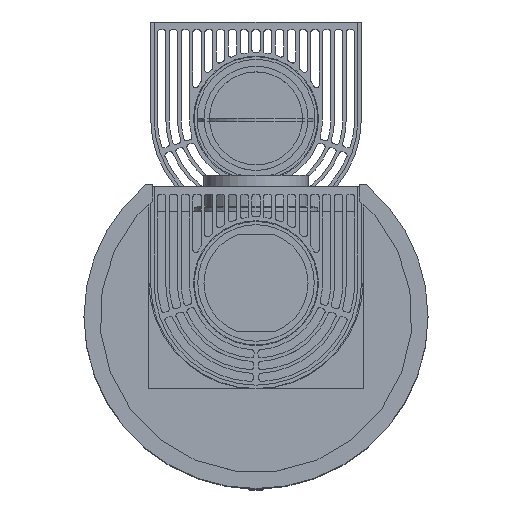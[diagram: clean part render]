
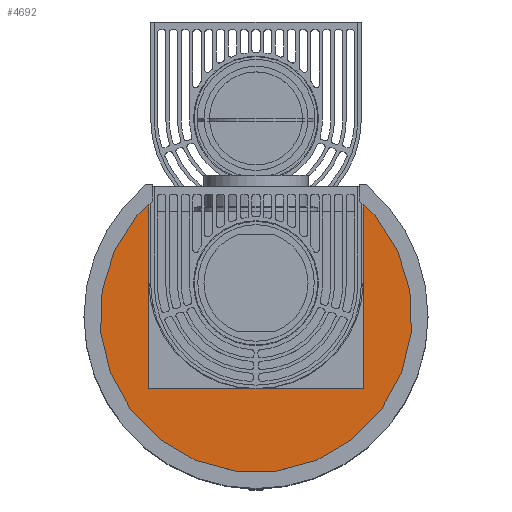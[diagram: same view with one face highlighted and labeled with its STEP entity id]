
A CAD part, top view. The second image highlights one B-rep face of the part: STEP entity #4692.
In plain terms, the highlighted planar face has unit normal (0, 0, 1).
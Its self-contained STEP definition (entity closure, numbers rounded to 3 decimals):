
#4692 = ADVANCED_FACE( '', ( #9731 ), #9732, .T. );
#9731 = FACE_OUTER_BOUND( '', #37707, .T. );
#9732 = PLANE( '', #37708 );
#37707 = EDGE_LOOP( '', ( #57451, #57452, #57453, #57454, #57455, #57456, #57457, #57458, #57459, #57460, #57461, #57462, #57463, #57464, #57465, #57466, #57467, #57468, #57469, #57470, #57471, #57472 ) );
#37708 = AXIS2_PLACEMENT_3D( '', #57473, #57474, #57475 );
#57451 = ORIENTED_EDGE( '', *, *, #62112, .F. );
#57452 = ORIENTED_EDGE( '', *, *, #63010, .F. );
#57453 = ORIENTED_EDGE( '', *, *, #61467, .F. );
#57454 = ORIENTED_EDGE( '', *, *, #64643, .F. );
#57455 = ORIENTED_EDGE( '', *, *, #61073, .F. );
#57456 = ORIENTED_EDGE( '', *, *, #65084, .F. );
#57457 = ORIENTED_EDGE( '', *, *, #62331, .F. );
#57458 = ORIENTED_EDGE( '', *, *, #62249, .F. );
#57459 = ORIENTED_EDGE( '', *, *, #62795, .F. );
#57460 = ORIENTED_EDGE( '', *, *, #60389, .F. );
#57461 = ORIENTED_EDGE( '', *, *, #63585, .F. );
#57462 = ORIENTED_EDGE( '', *, *, #63813, .T. );
#57463 = ORIENTED_EDGE( '', *, *, #62506, .T. );
#57464 = ORIENTED_EDGE( '', *, *, #65242, .T. );
#57465 = ORIENTED_EDGE( '', *, *, #64318, .T. );
#57466 = ORIENTED_EDGE( '', *, *, #65100, .T. );
#57467 = ORIENTED_EDGE( '', *, *, #65243, .T. );
#57468 = ORIENTED_EDGE( '', *, *, #60959, .T. );
#57469 = ORIENTED_EDGE( '', *, *, #62992, .T. );
#57470 = ORIENTED_EDGE( '', *, *, #65244, .T. );
#57471 = ORIENTED_EDGE( '', *, *, #65245, .T. );
#57472 = ORIENTED_EDGE( '', *, *, #65246, .F. );
#57473 = CARTESIAN_POINT( '', ( -307.95, -12382.865, 1538.155 ) );
#57474 = DIRECTION( '', ( 0., 0., 1. ) );
#57475 = DIRECTION( '', ( 1., 0., 0. ) );
#60389 = EDGE_CURVE( '', #67063, #67066, #67067, .T. );
#60959 = EDGE_CURVE( '', #68044, #68049, #68051, .T. );
#61073 = EDGE_CURVE( '', #68240, #68243, #68244, .T. );
#61467 = EDGE_CURVE( '', #68881, #68884, #68885, .T. );
#62112 = EDGE_CURVE( '', #69903, #69906, #69907, .T. );
#62249 = EDGE_CURVE( '', #70109, #70112, #70113, .T. );
#62331 = EDGE_CURVE( '', #70112, #70236, #70237, .T. );
#62506 = EDGE_CURVE( '', #70489, #70494, #70496, .T. );
#62795 = EDGE_CURVE( '', #67066, #70109, #70926, .T. );
#62992 = EDGE_CURVE( '', #68049, #71206, #71208, .T. );
#63010 = EDGE_CURVE( '', #68884, #69903, #71229, .T. );
#63585 = EDGE_CURVE( '', #72031, #67063, #72033, .T. );
#63813 = EDGE_CURVE( '', #72031, #70489, #72347, .T. );
#64318 = EDGE_CURVE( '', #72984, #72986, #72988, .T. );
#64643 = EDGE_CURVE( '', #68243, #68881, #73372, .T. );
#65084 = EDGE_CURVE( '', #70236, #68240, #73880, .T. );
#65100 = EDGE_CURVE( '', #72986, #73896, #73898, .T. );
#65242 = EDGE_CURVE( '', #70494, #72984, #74043, .T. );
#65243 = EDGE_CURVE( '', #73896, #68044, #74044, .T. );
#65244 = EDGE_CURVE( '', #71206, #74045, #74046, .T. );
#65245 = EDGE_CURVE( '', #74045, #74047, #74048, .T. );
#65246 = EDGE_CURVE( '', #69906, #74047, #74049, .T. );
#67063 = VERTEX_POINT( '', #78186 );
#67066 = VERTEX_POINT( '', #78190 );
#67067 = LINE( '', #78191, #78192 );
#68044 = VERTEX_POINT( '', #80586 );
#68049 = VERTEX_POINT( '', #80593 );
#68051 = LINE( '', #80596, #80597 );
#68240 = VERTEX_POINT( '', #81085 );
#68243 = VERTEX_POINT( '', #81089 );
#68244 = LINE( '', #81090, #81091 );
#68881 = VERTEX_POINT( '', #82772 );
#68884 = VERTEX_POINT( '', #82776 );
#68885 = LINE( '', #82777, #82778 );
#69903 = VERTEX_POINT( '', #85835 );
#69906 = VERTEX_POINT( '', #85839 );
#69907 = LINE( '', #85840, #85841 );
#70109 = VERTEX_POINT( '', #86211 );
#70112 = VERTEX_POINT( '', #86215 );
#70113 = LINE( '', #86216, #86217 );
#70236 = VERTEX_POINT( '', #86419 );
#70237 = LINE( '', #86420, #86421 );
#70489 = VERTEX_POINT( '', #87161 );
#70494 = VERTEX_POINT( '', #87168 );
#70496 = LINE( '', #87171, #87172 );
#70926 = LINE( '', #88130, #88131 );
#71206 = VERTEX_POINT( '', #88991 );
#71208 = LINE( '', #88994, #88995 );
#71229 = LINE( '', #89039, #89040 );
#72031 = VERTEX_POINT( '', #91584 );
#72033 = LINE( '', #91587, #91588 );
#72347 = LINE( '', #92607, #92608 );
#72984 = VERTEX_POINT( '', #94248 );
#72986 = VERTEX_POINT( '', #94251 );
#72988 = LINE( '', #94254, #94255 );
#73372 = LINE( '', #95484, #95485 );
#73880 = LINE( '', #96658, #96659 );
#73896 = VERTEX_POINT( '', #96677 );
#73898 = LINE( '', #96680, #96681 );
#74043 = LINE( '', #96971, #96972 );
#74044 = LINE( '', #96973, #96974 );
#74045 = VERTEX_POINT( '', #96975 );
#74046 = LINE( '', #96976, #96977 );
#74047 = VERTEX_POINT( '', #96978 );
#74048 = LINE( '', #96979, #96980 );
#74049 = LINE( '', #96981, #96982 );
#78186 = CARTESIAN_POINT( '', ( -30., -511.35, 1538.155 ) );
#78190 = CARTESIAN_POINT( '', ( -87.867, -495.493, 1538.155 ) );
#78191 = CARTESIAN_POINT( '', ( -255.021, -449.69, 1538.155 ) );
#78192 = VECTOR( '', #98573, 1000. );
#80586 = CARTESIAN_POINT( '', ( 221.854, -250.805, 1538.155 ) );
#80593 = CARTESIAN_POINT( '', ( 204.045, -193.509, 1538.155 ) );
#80596 = CARTESIAN_POINT( '', ( 173.388, -94.884, 1538.155 ) );
#80597 = VECTOR( '', #99135, 1000. );
#81085 = CARTESIAN_POINT( '', ( -223.889, -310.77, 1538.155 ) );
#81089 = CARTESIAN_POINT( '', ( -221.854, -250.805, 1538.155 ) );
#81090 = CARTESIAN_POINT( '', ( -216.649, -97.395, 1538.155 ) );
#81091 = VECTOR( '', #99243, 1000. );
#82772 = CARTESIAN_POINT( '', ( -204.045, -193.509, 1538.155 ) );
#82776 = CARTESIAN_POINT( '', ( -171.726, -142.957, 1538.155 ) );
#82777 = CARTESIAN_POINT( '', ( -148.25, -106.236, 1538.155 ) );
#82778 = VECTOR( '', #99621, 1000. );
#85835 = CARTESIAN_POINT( '', ( -154.495, -127.539, 1538.155 ) );
#85839 = CARTESIAN_POINT( '', ( -154.451, -391.85, 1538.155 ) );
#85840 = CARTESIAN_POINT( '', ( -154.5, -99.349, 1538.155 ) );
#85841 = VECTOR( '', #100185, 1000. );
#86211 = CARTESIAN_POINT( '', ( -139.486, -464.908, 1538.155 ) );
#86215 = CARTESIAN_POINT( '', ( -181.187, -421.768, 1538.155 ) );
#86216 = CARTESIAN_POINT( '', ( -331.596, -266.168, 1538.155 ) );
#86217 = VECTOR( '', #100309, 1000. );
#86419 = CARTESIAN_POINT( '', ( -210.004, -369.142, 1538.155 ) );
#86420 = CARTESIAN_POINT( '', ( -311.898, -183.062, 1538.155 ) );
#86421 = VECTOR( '', #100376, 1000. );
#87161 = CARTESIAN_POINT( '', ( 87.867, -495.493, 1538.155 ) );
#87168 = CARTESIAN_POINT( '', ( 139.486, -464.908, 1538.155 ) );
#87171 = CARTESIAN_POINT( '', ( 314.263, -361.348, 1538.155 ) );
#87172 = VECTOR( '', #100518, 1000. );
#88130 = CARTESIAN_POINT( '', ( -314.263, -361.348, 1538.155 ) );
#88131 = VECTOR( '', #100785, 1000. );
#88991 = CARTESIAN_POINT( '', ( 171.726, -142.957, 1538.155 ) );
#88994 = CARTESIAN_POINT( '', ( 148.25, -106.236, 1538.155 ) );
#88995 = VECTOR( '', #100929, 1000. );
#89039 = CARTESIAN_POINT( '', ( -143.001, -117.254, 1538.155 ) );
#89040 = VECTOR( '', #100945, 1000. );
#91584 = CARTESIAN_POINT( '', ( 30., -511.35, 1538.155 ) );
#91587 = CARTESIAN_POINT( '', ( -159.022, -511.35, 1538.155 ) );
#91588 = VECTOR( '', #101335, 1000. );
#92607 = CARTESIAN_POINT( '', ( 255.021, -449.69, 1538.155 ) );
#92608 = VECTOR( '', #101558, 1000. );
#94248 = CARTESIAN_POINT( '', ( 181.187, -421.768, 1538.155 ) );
#94251 = CARTESIAN_POINT( '', ( 210.004, -369.142, 1538.155 ) );
#94254 = CARTESIAN_POINT( '', ( 311.898, -183.062, 1538.155 ) );
#94255 = VECTOR( '', #102074, 1000. );
#95484 = CARTESIAN_POINT( '', ( -173.388, -94.884, 1538.155 ) );
#95485 = VECTOR( '', #102283, 1000. );
#96658 = CARTESIAN_POINT( '', ( -268.013, -125.276, 1538.155 ) );
#96659 = VECTOR( '', #102622, 1000. );
#96677 = CARTESIAN_POINT( '', ( 223.889, -310.77, 1538.155 ) );
#96680 = CARTESIAN_POINT( '', ( 268.013, -125.276, 1538.155 ) );
#96681 = VECTOR( '', #102632, 1000. );
#96971 = CARTESIAN_POINT( '', ( 331.596, -266.168, 1538.155 ) );
#96972 = VECTOR( '', #102694, 1000. );
#96973 = CARTESIAN_POINT( '', ( 216.649, -97.395, 1538.155 ) );
#96974 = VECTOR( '', #102695, 1000. );
#96975 = CARTESIAN_POINT( '', ( 154.495, -127.539, 1538.155 ) );
#96976 = CARTESIAN_POINT( '', ( 143.001, -117.254, 1538.155 ) );
#96977 = VECTOR( '', #102696, 1000. );
#96978 = CARTESIAN_POINT( '', ( 154.451, -391.85, 1538.155 ) );
#96979 = CARTESIAN_POINT( '', ( 154.5, -99.349, 1538.155 ) );
#96980 = VECTOR( '', #102697, 1000. );
#96981 = CARTESIAN_POINT( '', ( -159.022, -391.85, 1538.155 ) );
#96982 = VECTOR( '', #102698, 1000. );
#98573 = DIRECTION( '', ( -0.964, 0.264, 0. ) );
#99135 = DIRECTION( '', ( -0.297, 0.955, 0. ) );
#99243 = DIRECTION( '', ( 0.034, 0.999, 0. ) );
#99621 = DIRECTION( '', ( 0.539, 0.843, 0. ) );
#100185 = DIRECTION( '', ( 0., -1., 0. ) );
#100309 = DIRECTION( '', ( -0.695, 0.719, 0. ) );
#100376 = DIRECTION( '', ( -0.48, 0.877, 0. ) );
#100518 = DIRECTION( '', ( 0.86, 0.51, 0. ) );
#100785 = DIRECTION( '', ( -0.86, 0.51, 0. ) );
#100929 = DIRECTION( '', ( -0.539, 0.843, 0. ) );
#100945 = DIRECTION( '', ( 0.745, 0.667, 0. ) );
#101335 = DIRECTION( '', ( -1., 0., 0. ) );
#101558 = DIRECTION( '', ( 0.964, 0.264, 0. ) );
#102074 = DIRECTION( '', ( 0.48, 0.877, 0. ) );
#102283 = DIRECTION( '', ( 0.297, 0.955, 0. ) );
#102622 = DIRECTION( '', ( -0.231, 0.973, 0. ) );
#102632 = DIRECTION( '', ( 0.231, 0.973, 0. ) );
#102694 = DIRECTION( '', ( 0.695, 0.719, 0. ) );
#102695 = DIRECTION( '', ( -0.034, 0.999, 0. ) );
#102696 = DIRECTION( '', ( -0.745, 0.667, 0. ) );
#102697 = DIRECTION( '', ( 0., -1., 0. ) );
#102698 = DIRECTION( '', ( 1., 0., 0. ) );
